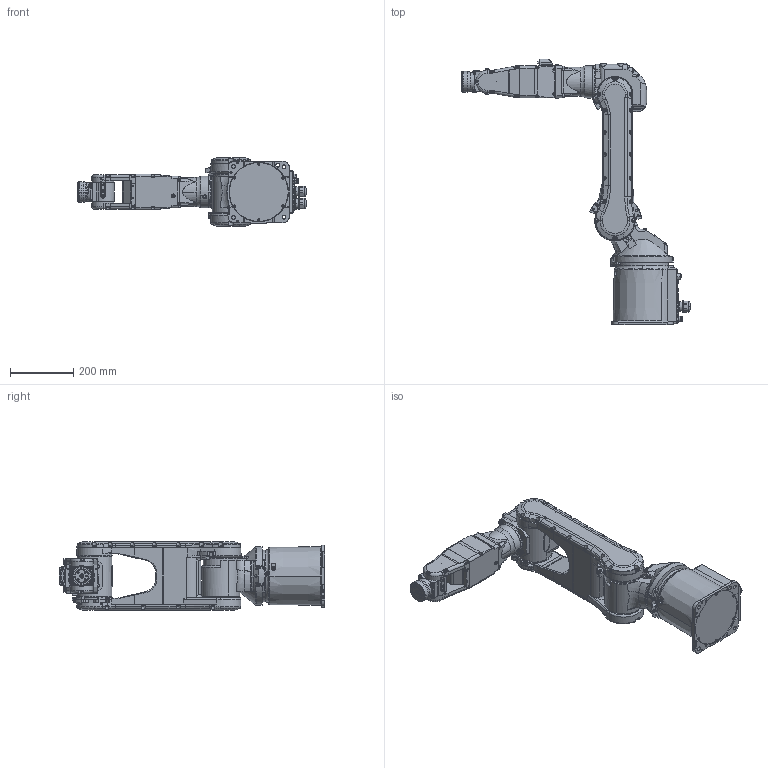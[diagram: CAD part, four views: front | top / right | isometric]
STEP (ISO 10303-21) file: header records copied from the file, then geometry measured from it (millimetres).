
FILE_DESCRIPTION( ( '' ), '1' );
FILE_NAME( '//expscmdclustefs.cadenas.external/client_exchange/iodir/jobs/output/wkb51551732_no0/STEP/S5_A901CR_2_14b.stp', '2012-11-23T15:11:26', ( '' ), ( '' ), ' ', ' ', ' ' );
FILE_SCHEMA( ( 'automotive_design' ) );
Length unit declared in the file: millimetre
Products named in the file (7): 1; 2; 3; 4; 5; 6; 7
Bounding box: 723.2 x 842 x 218 mm (x, y, z)
Volume: 21205590.2 mm3; surface area: 1088227.4 mm2
Topology: 7 solids, 7 shells, 3525 faces, 9113 edges, 5935 vertices
Faces by surface type: plane 1870, cylinder 1077, torus 325, cone 252, sphere 1
Entity records: 217490 total; most frequent: CARTESIAN_POINT 26069, DIRECTION 18953, STYLED_ITEM 18548, PRESENTATION_STYLE_ASSIGNMENT 18548, COLOUR_RGB 18548, ORIENTED_EDGE 18162, EDGE_CURVE 9081, CURVE_STYLE 9081
